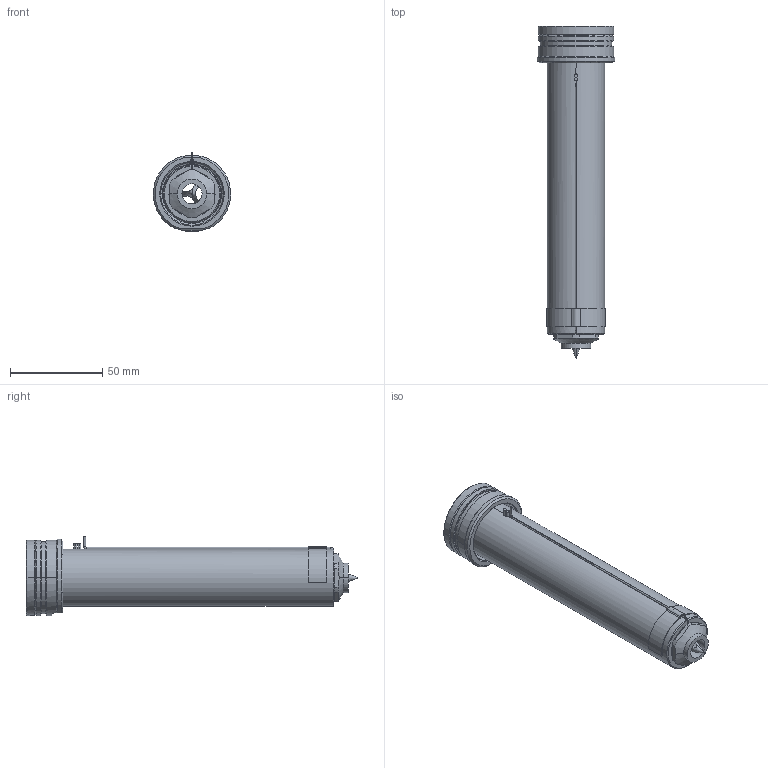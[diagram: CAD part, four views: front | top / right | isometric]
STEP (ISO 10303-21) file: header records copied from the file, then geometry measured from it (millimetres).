
FILE_DESCRIPTION((''),'2;1');
FILE_NAME('EO12_PG-BL_STD_160_SW','2024-02-19T11:12:52',('sundharh'),(''),'CREO PARAMETRIC BY PTC INC, 2023154','CREO PARAMETRIC BY PTC INC, 2023154','');
FILE_SCHEMA(('CONFIG_CONTROL_DESIGN'));
Length unit declared in the file: millimetre
Products named in the file (1): EO12_PG-BL_STD_160_SW
Bounding box: 41.85 x 180 x 43 mm (x, y, z)
Volume: 119148.4 mm3; surface area: 32204.2 mm2
Topology: 2 solids, 3 shells, 212 faces, 561 edges, 346 vertices
Faces by surface type: cylinder 80, plane 59, cone 41, torus 27, bspline 3, sphere 2
Entity records: 7683 total; most frequent: CARTESIAN_POINT 2293, DIRECTION 1193, ORIENTED_EDGE 1114, EDGE_CURVE 557, AXIS2_PLACEMENT_3D 502, VERTEX_POINT 346, CIRCLE 293, EDGE_LOOP 229
